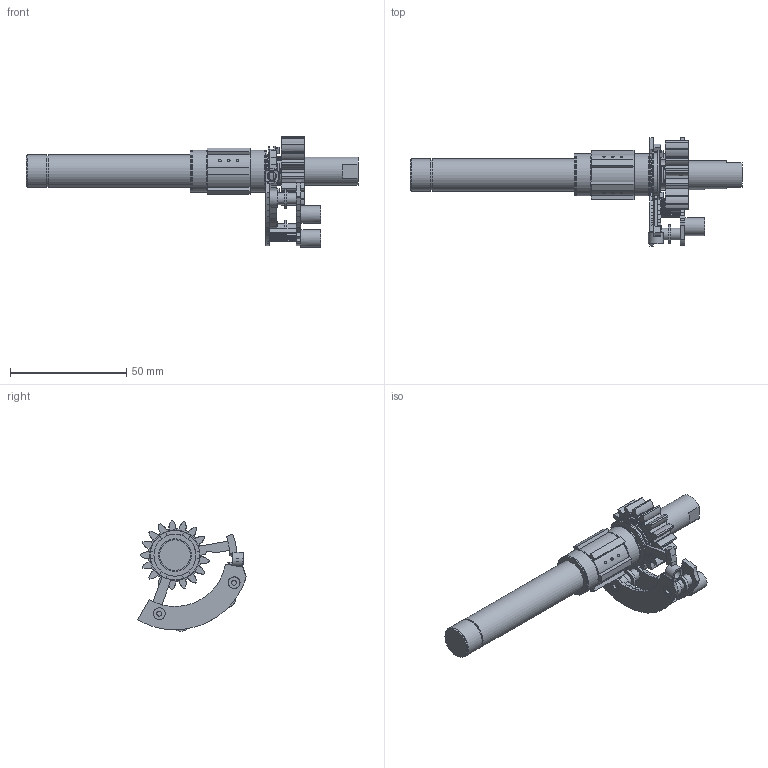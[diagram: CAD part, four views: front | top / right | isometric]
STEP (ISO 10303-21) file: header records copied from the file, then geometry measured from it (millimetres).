
FILE_DESCRIPTION(('Open CASCADE Model'),'2;1');
FILE_NAME('R12_INSTALL_06','2026-09-28T18:28:03',('Author'),( 'Open CASCADE'),'Open CASCADE STEP processor 7.9','build123d', 'Unknown');
FILE_SCHEMA(('AUTOMOTIVE_DESIGN { 1 0 10303 214 1 1 1 1 }'));
Length unit declared in the file: millimetre
Products named in the file (11): R12_INSTALL_06; U_R12_local_12mm_shaft; B3_R12_U_axis_single_sided_dog; B3_R12_U_axis_two_foot_fork; B3_R12_front_support_and_carrier; B3_R12_guide_rod_1_with_stop; B3_R12_guide_rod_2_with_stop; B3_R12_removable_rear_support; B3_R12_bush_boundary_C_clip; B3_R12_12x14_flanged_plain_bush; B3_R12_free_17T_end_face_windows
Assembly tree (10 placements, depth 2):
  R12_INSTALL_06
    U_R12_local_12mm_shaft
    B3_R12_U_axis_single_sided_dog
    B3_R12_U_axis_two_foot_fork
    B3_R12_front_support_and_carrier
    B3_R12_guide_rod_1_with_stop
    B3_R12_guide_rod_2_with_stop
    B3_R12_removable_rear_support
    B3_R12_bush_boundary_C_clip
    B3_R12_12x14_flanged_plain_bush
    B3_R12_free_17T_end_face_windows
Bounding box: 142.5 x 46.63 x 47.5 mm (x, y, z)
Volume: 32580 mm3; surface area: 18190.5 mm2
Topology: 10 solids, 10 shells, 1374 faces, 3728 edges, 2423 vertices
Faces by surface type: plane 1180, cylinder 135, extrusion 34, cone 16, sphere 9
Full cylindrical faces by diameter (mm): 1.3 x2, 2.1 x4, 2.6 x2, 4.06 x1, 4.2 x1, 5 x4, 5.08 x6, 6.4 x1, 7.4 x2, 7.6 x2, 8 x2, 11.6 x1, 12 x2, 12.05 x1, 13.2 x2, 14 x3, 14.05 x1, 14.2 x2, 14.6 x1, 14.7 x1, 17.7 x4, 18 x4, 18.8 x1, 21.2 x2, 21.7 x1
Entity records: 102066 total; most frequent: CARTESIAN_POINT 26418, DIRECTION 13927, VECTOR 10295, LINE 10261, ORIENTED_EDGE 7450, PCURVE 7450, DEFINITIONAL_REPRESENTATION 7450, EDGE_CURVE 3725
